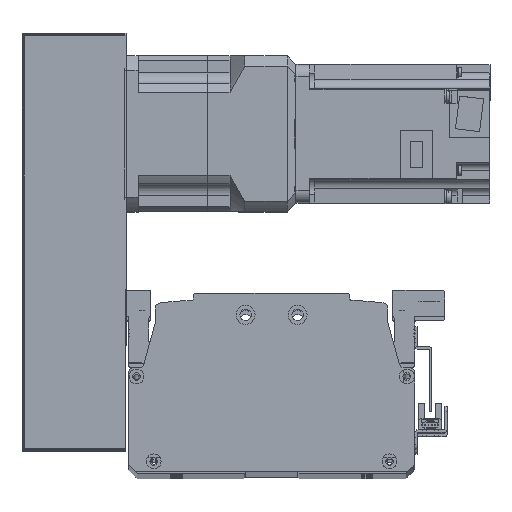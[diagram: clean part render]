
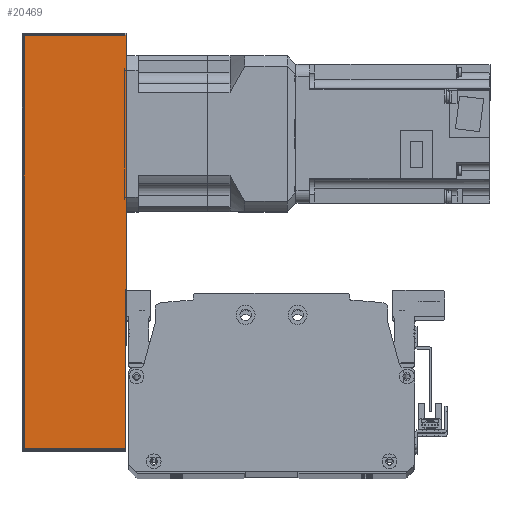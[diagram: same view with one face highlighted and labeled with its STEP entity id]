
A CAD part, top view. The second image highlights one B-rep face of the part: STEP entity #20469.
In plain terms, the highlighted planar face has unit normal (0, 0, 1) as drawn and (0, -1, 0) by its records, which use the part's own axes.
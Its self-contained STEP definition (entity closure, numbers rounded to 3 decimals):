
#613=PLANE('',#22363);
#1734=LINE('',#32955,#3394);
#1757=LINE('',#33042,#3417);
#1758=LINE('',#33050,#3418);
#1766=LINE('',#33076,#3426);
#3394=VECTOR('',#26695,10.);
#3417=VECTOR('',#26806,10.);
#3418=VECTOR('',#26817,10.);
#3426=VECTOR('',#26853,10.);
#5486=FACE_OUTER_BOUND('',#6990,.T.);
#6990=EDGE_LOOP('',(#16656,#16657,#16658,#16659));
#9930=VERTEX_POINT('',#32952);
#9931=VERTEX_POINT('',#32954);
#9951=VERTEX_POINT('',#33038);
#9952=VERTEX_POINT('',#33044);
#12325=EDGE_CURVE('',#9930,#9931,#1734,.T.);
#12370=EDGE_CURVE('',#9931,#9951,#1757,.T.);
#12374=EDGE_CURVE('',#9952,#9930,#1758,.T.);
#12388=EDGE_CURVE('',#9951,#9952,#1766,.T.);
#16656=ORIENTED_EDGE('',*,*,#12370,.F.);
#16657=ORIENTED_EDGE('',*,*,#12325,.F.);
#16658=ORIENTED_EDGE('',*,*,#12374,.F.);
#16659=ORIENTED_EDGE('',*,*,#12388,.F.);
#20469=ADVANCED_FACE('',(#5486),#613,.T.);
#22363=AXIS2_PLACEMENT_3D('',#33081,#26862,#26863);
#26695=DIRECTION('',(1.,0.,0.));
#26806=DIRECTION('',(0.,0.,-1.));
#26817=DIRECTION('',(0.,0.,1.));
#26853=DIRECTION('',(-1.,0.,0.));
#26862=DIRECTION('center_axis',(0.,-1.,0.));
#26863=DIRECTION('ref_axis',(1.,0.,0.));
#32952=CARTESIAN_POINT('',(-119.5,-51.,30.));
#32954=CARTESIAN_POINT('',(119.5,-51.,30.));
#32955=CARTESIAN_POINT('',(120.5,-51.,30.));
#33038=CARTESIAN_POINT('',(119.5,-51.,-29.));
#33042=CARTESIAN_POINT('',(119.5,-51.,0.));
#33044=CARTESIAN_POINT('',(-119.5,-51.,-29.));
#33050=CARTESIAN_POINT('',(-119.5,-51.,0.));
#33076=CARTESIAN_POINT('',(-60.25,-51.,-29.));
#33081=CARTESIAN_POINT('Origin',(-120.5,-51.,0.));
